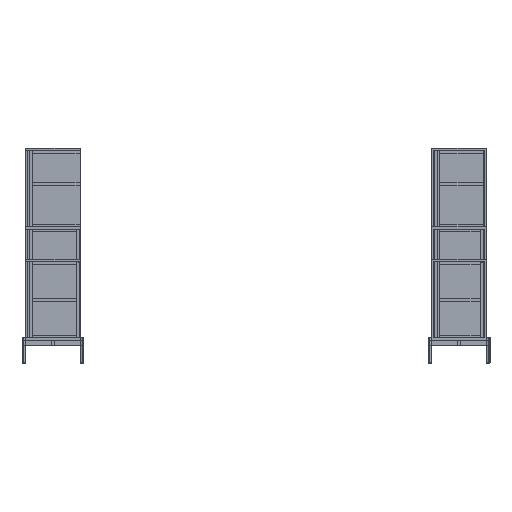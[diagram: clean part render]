
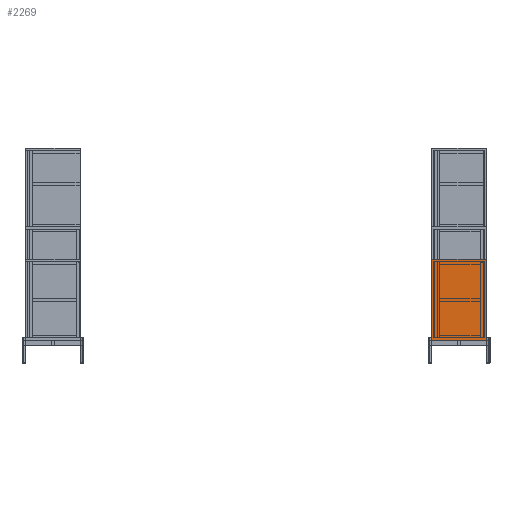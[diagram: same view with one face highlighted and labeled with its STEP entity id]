
A CAD part, left-side view. The second image highlights one B-rep face of the part: STEP entity #2269.
In plain terms, the highlighted planar face has unit normal (-1, 0, 0).
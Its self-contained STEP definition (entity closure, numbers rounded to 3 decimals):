
#2269=ADVANCED_FACE('',(#3945),#22077,.T.);
#3945=FACE_OUTER_BOUND('',#5637,.T.);
#5637=EDGE_LOOP('',(#9971,#9972,#9973,#9974));
#9971=ORIENTED_EDGE('',*,*,#14835,.F.);
#9972=ORIENTED_EDGE('',*,*,#14838,.T.);
#9973=ORIENTED_EDGE('',*,*,#14837,.F.);
#9974=ORIENTED_EDGE('',*,*,#14836,.T.);
#14835=EDGE_CURVE('',#20287,#20288,#17823,.T.);
#14836=EDGE_CURVE('',#20289,#20288,#17824,.T.);
#14837=EDGE_CURVE('',#20289,#20290,#17825,.T.);
#14838=EDGE_CURVE('',#20287,#20290,#17826,.T.);
#17823=B_SPLINE_CURVE_WITH_KNOTS('',1,(#32564,#32565),.UNSPECIFIED.,.F.,
 .F.,(2,2),(0.,562.),.UNSPECIFIED.);
#17824=B_SPLINE_CURVE_WITH_KNOTS('',1,(#32566,#32567),.UNSPECIFIED.,.F.,
 .F.,(2,2),(-400.,0.),.UNSPECIFIED.);
#17825=B_SPLINE_CURVE_WITH_KNOTS('',1,(#32568,#32569),.UNSPECIFIED.,.F.,
 .F.,(2,2),(0.,562.),.UNSPECIFIED.);
#17826=B_SPLINE_CURVE_WITH_KNOTS('',1,(#32570,#32571),.UNSPECIFIED.,.F.,
 .F.,(2,2),(-400.,0.),.UNSPECIFIED.);
#20287=VERTEX_POINT('',#32552);
#20288=VERTEX_POINT('',#32553);
#20289=VERTEX_POINT('',#32554);
#20290=VERTEX_POINT('',#32555);
#22077=PLANE('',#23745);
#23745=AXIS2_PLACEMENT_3D('',#32546,#25425,$);
#25425=DIRECTION('',(-1.,0.,0.));
#32546=CARTESIAN_POINT('',(-1400.,240.,833.5));
#32552=CARTESIAN_POINT('',(-1400.,200.,173.5));
#32553=CARTESIAN_POINT('',(-1400.,200.,773.5));
#32554=CARTESIAN_POINT('',(-1400.,-200.,773.5));
#32555=CARTESIAN_POINT('',(-1400.,-200.,173.5));
#32564=CARTESIAN_POINT('',(-1400.,200.,173.5));
#32565=CARTESIAN_POINT('',(-1400.,200.,773.5));
#32566=CARTESIAN_POINT('',(-1400.,-200.,773.5));
#32567=CARTESIAN_POINT('',(-1400.,200.,773.5));
#32568=CARTESIAN_POINT('',(-1400.,-200.,773.5));
#32569=CARTESIAN_POINT('',(-1400.,-200.,173.5));
#32570=CARTESIAN_POINT('',(-1400.,200.,173.5));
#32571=CARTESIAN_POINT('',(-1400.,-200.,173.5));
